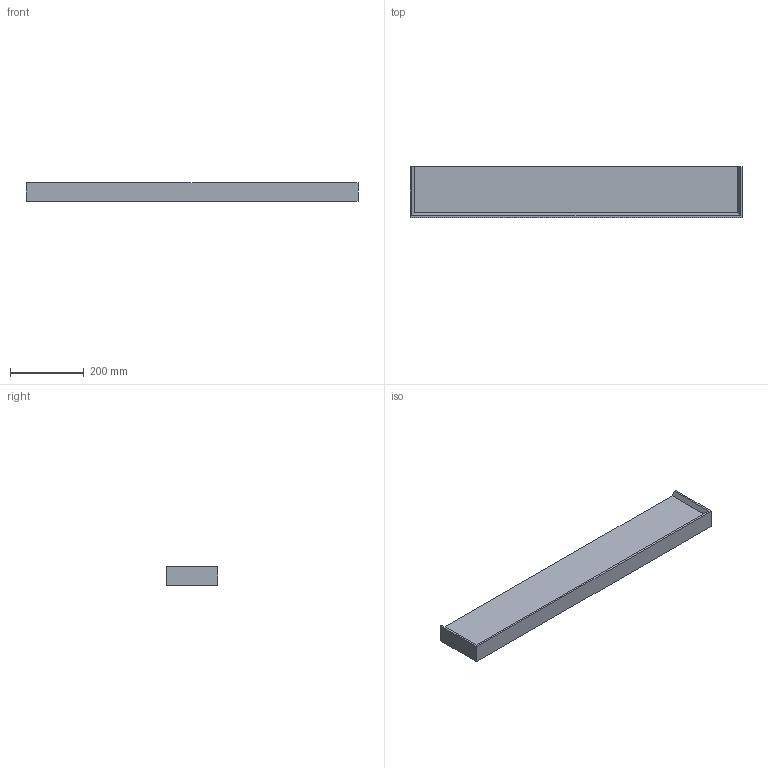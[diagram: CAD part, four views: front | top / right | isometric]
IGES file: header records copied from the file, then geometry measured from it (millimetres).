
Start section: Data from Parasolid IGES Translator 22.0.50, Copyright(c) 2006 Siemens P LM Software. All Rights Reserved.
Global section: file name: noorth-haus-H 5 D 13 W 90_4284.igs; native system: By Siemens PLM Incorporated; preprocessor: XPlus GENERIC/IGES 22.0.50; author: Noname; organization: Noname; date: 20251207.155831; units: metre
Bounding box: 900 x 138.25 x 50 mm (x, y, z)
Volume: 1968437.9 mm3; surface area: 386298.8 mm2
Topology: 4 solids, 4 shells, 27 faces, 57 edges, 38 vertices
Faces by surface type: plane 27
